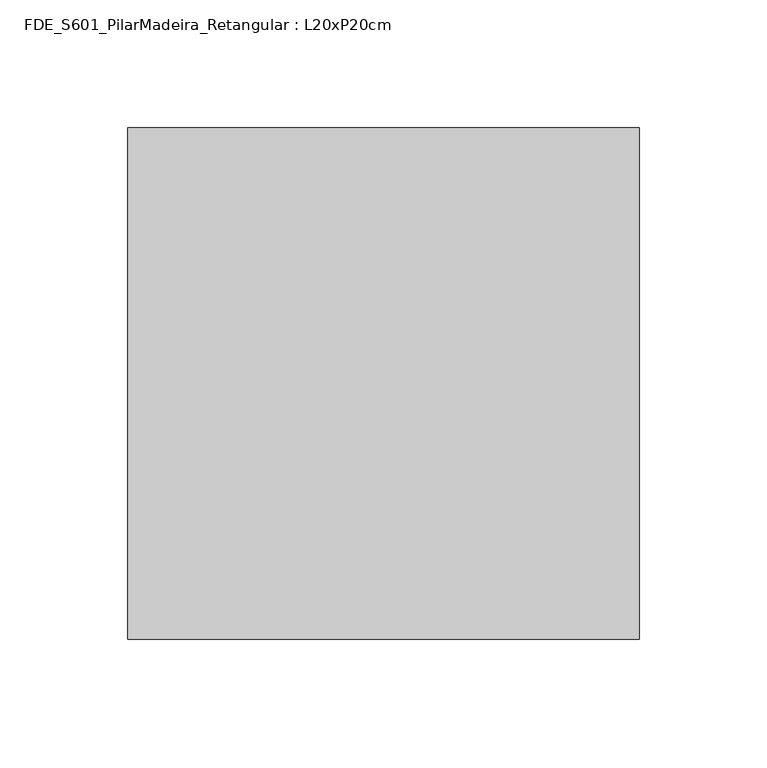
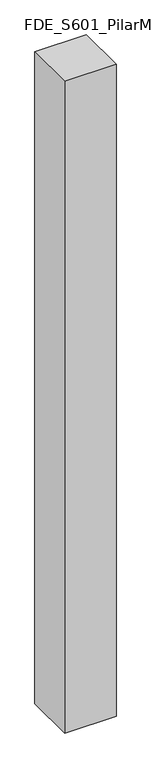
"""IFC4 building model written with IfcOpenShell, lengths in millimetres: column geometry, FDE_S601_PilarMadeira_Retangular : L20xP20cm."""

import ifcopenshell
import ifcopenshell.guid

model = None  # the IFC model being written
_history = None  # IfcOwnerHistory: only IFC2X3 demands one
_inside = {}  # id of a spatial element -> (the spatial element, [elements in it])
_under = {}  # id of a project, library or spatial element -> (it, [spatial elements below it])
_declared = {}  # id of a project -> (the project, [libraries it declares])
_typed = {}  # id of a type object -> (the type object, [elements of that type])
_made_of = {}  # id of a material, layer set ... -> (it, [elements and type objects made of it])


def new_model(schema):
    """Start an empty IFC model of exactly this schema.

    Asked for "IFC4X3", IfcOpenShell would pick the latest addendum, in which some entities
    have other attributes; the version numbers below select the first issue.
    IFC2X3 requires an IfcOwnerHistory on every rooted entity: one is made here for all.
    """
    global model, _history
    if schema == "IFC4X3":
        model = ifcopenshell.file(schema_version=(4, 3, 0, 0))
    else:
        model = ifcopenshell.file(schema=schema)
    _inside.clear()
    _under.clear()
    _declared.clear()
    _typed.clear()
    _made_of.clear()
    _history = None
    if model.schema == "IFC2X3":
        org = make("IfcOrganization", Name="unknown")
        user = make(
            "IfcPersonAndOrganization",
            ThePerson=make("IfcPerson", FamilyName="unknown"),
            TheOrganization=org,
        )
        app = make(
            "IfcApplication",
            ApplicationDeveloper=org,
            Version="unknown",
            ApplicationFullName="unknown",
            ApplicationIdentifier="unknown",
        )
        _history = make(
            "IfcOwnerHistory",
            OwningUser=user,
            OwningApplication=app,
            ChangeAction="ADDED",
            CreationDate=0,
        )
    return model


def make(cls, **values):
    """One entity of the class cls with the attributes given. An attribute that is None is left unset."""
    return model.create_entity(
        cls, **{name: value for name, value in values.items() if value is not None}
    )


def rooted(cls, **values):
    """An entity with a GlobalId (a new one), such as an element, a storey or a relation."""
    return make(cls, GlobalId=ifcopenshell.guid.new(), OwnerHistory=_history, **values)


def si_unit(unit_type, name, prefix=None):
    """IfcSIUnit, for example si_unit("LENGTHUNIT", "METRE", prefix="MILLI")."""
    return make("IfcSIUnit", UnitType=unit_type, Prefix=prefix, Name=name)


def assignment(units):
    """IfcUnitAssignment: the units of a project."""
    return None if units is None else make("IfcUnitAssignment", Units=units)


def point(xyz):
    """IfcCartesianPoint."""
    return None if xyz is None else make("IfcCartesianPoint", Coordinates=xyz)


def direction(xyz):
    """IfcDirection."""
    return None if xyz is None else make("IfcDirection", DirectionRatios=xyz)


def frame(location, z_axis=None, x_axis=None):
    """IfcAxis2Placement3D, a coordinate frame: its origin and axes. An axis left out is left unset."""
    return make(
        "IfcAxis2Placement3D",
        Location=point(location),
        Axis=direction(z_axis),
        RefDirection=direction(x_axis),
    )


def origin():
    """The frame at (0, 0, 0) with its axes left unset."""
    return frame((0.0, 0.0, 0.0))


def place(relative_to, where):
    """IfcLocalPlacement: puts the frame where relative to a parent placement (None: the world)."""
    return make(
        "IfcLocalPlacement", PlacementRelTo=relative_to, RelativePlacement=where
    )


def context(
    kind, dimensions, precision=None, world=None, true_north=None, identifier=None
):
    """IfcGeometricRepresentationContext, for example the 3D "Model" context."""
    return make(
        "IfcGeometricRepresentationContext",
        ContextIdentifier=identifier,
        ContextType=kind,
        CoordinateSpaceDimension=dimensions,
        Precision=precision,
        WorldCoordinateSystem=world,
        TrueNorth=true_north,
    )


def project(units=None, contexts=None):
    """IfcProject with its units and contexts."""
    return rooted(
        "IfcProject",
        Name="project",
        RepresentationContexts=contexts,
        UnitsInContext=assignment(units),
    )


def spatial(cls, under=None, at=None, **own):
    """A site, building, storey or space (cls), placed at a placement, below another one or the project."""
    s = rooted(cls, ObjectPlacement=at, **own)
    if under is not None:
        _under.setdefault(under.id(), (under, []))[1].append(s)
    return s


def polyline(points):
    """IfcPolyline through the points."""
    return make("IfcPolyline", Points=[point(p) for p in points])


def outline(outer, holes=None, kind="AREA"):
    """IfcArbitraryClosedProfileDef: a profile drawn as a closed curve; with holes, ...WithVoids."""
    if holes is None:
        return make("IfcArbitraryClosedProfileDef", ProfileType=kind, OuterCurve=outer)
    return make(
        "IfcArbitraryProfileDefWithVoids",
        ProfileType=kind,
        OuterCurve=outer,
        InnerCurves=holes,
    )


def extrude(swept, where, along, depth):
    """IfcExtrudedAreaSolid: the profile swept, set in the frame where, extruded along a direction by depth."""
    return make(
        "IfcExtrudedAreaSolid",
        SweptArea=swept,
        Position=where,
        ExtrudedDirection=direction(along),
        Depth=depth,
    )


def shape(context_of_items, identifier, shape_type, items):
    """IfcShapeRepresentation: the items that make up one representation, for example the "Body"."""
    return make(
        "IfcShapeRepresentation",
        ContextOfItems=context_of_items,
        RepresentationIdentifier=identifier,
        RepresentationType=shape_type,
        Items=items,
    )


def source(mapping_origin, context_of_items, identifier, shape_type, items):
    """IfcRepresentationMap: a shape defined once, which mapped items show again and again."""
    return make(
        "IfcRepresentationMap",
        MappingOrigin=mapping_origin,
        MappedRepresentation=shape(context_of_items, identifier, shape_type, items),
    )


def transform(
    local_origin,
    x_axis=None,
    y_axis=None,
    z_axis=None,
    scale=None,
    scale2=None,
    scale3=None,
    uniform=True,
):
    """IfcCartesianTransformationOperator3D, or its non-uniform kind. x_axis, y_axis, z_axis: its Axis1, 2, 3."""
    if uniform:
        return make(
            "IfcCartesianTransformationOperator3D",
            Axis1=direction(x_axis),
            Axis2=direction(y_axis),
            LocalOrigin=point(local_origin),
            Scale=scale,
            Axis3=direction(z_axis),
        )
    return make(
        "IfcCartesianTransformationOperator3DnonUniform",
        Axis1=direction(x_axis),
        Axis2=direction(y_axis),
        LocalOrigin=point(local_origin),
        Scale=scale,
        Axis3=direction(z_axis),
        Scale2=scale2,
        Scale3=scale3,
    )


def mapped(mapping_source, mapping_target):
    """IfcMappedItem: shows the shape of a source again, moved by a transform."""
    return make(
        "IfcMappedItem", MappingSource=mapping_source, MappingTarget=mapping_target
    )


def made_of(thing, what):
    """Note that an element or type object is made of a material, layer set ...; save() writes the relation."""
    if what is not None:
        _made_of.setdefault(what.id(), (what, []))[1].append(thing)
    return thing


def element(
    cls,
    number,
    at=None,
    inside=None,
    cuts=None,
    type_object=None,
    material=None,
    context=None,
    identifier="Body",
    shape_type=None,
    held_by="IfcProductDefinitionShape",
    body=None,
    shapes=None,
    **own,
):
    """One element of the class cls, such as IfcWall. Its Tag is "e" and its number.

    at: its placement. inside: the storey or other place that contains it. cuts: it is an
    opening in that element (IfcRelVoidsElement). A single representation is given by context,
    identifier, shape_type and body (its items); several are given by shapes. held_by: the class
    of the entity that holds the representations. save() writes the other relations.
    """
    e = rooted(cls, Tag="e%d" % number, ObjectPlacement=at, **own)
    if body is not None:
        shapes = [shape(context, identifier, shape_type, body)]
    if shapes is not None:
        e.Representation = make(held_by, Representations=shapes)
    if inside is not None:
        _inside.setdefault(inside.id(), (inside, []))[1].append(e)
    if cuts is not None:
        rooted(
            "IfcRelVoidsElement", RelatingBuildingElement=cuts, RelatedOpeningElement=e
        )
    if type_object is not None:
        _typed.setdefault(type_object.id(), (type_object, []))[1].append(e)
    return made_of(e, material)


def aggregate(whole, parts):
    """IfcRelAggregates: a whole, such as a stair, and the parts it consists of."""
    return rooted("IfcRelAggregates", RelatingObject=whole, RelatedObjects=parts)


def save(model, path):
    """Write the relations noted so far, then the file.

    IfcRelAggregates (storeys below a building ...), IfcRelContainedInSpatialStructure (elements
    in a storey), IfcRelDefinesByType, IfcRelAssociatesMaterial and IfcRelDeclares: one each for
    every whole, place, type object, material and project.
    """
    for whole, parts in _under.values():
        aggregate(whole, parts)
    for where, things in _inside.values():
        rooted(
            "IfcRelContainedInSpatialStructure",
            RelatedElements=things,
            RelatingStructure=where,
        )
    for kind, things in _typed.values():
        rooted("IfcRelDefinesByType", RelatedObjects=things, RelatingType=kind)
    for what, things in _made_of.values():
        rooted("IfcRelAssociatesMaterial", RelatedObjects=things, RelatingMaterial=what)
    for by, libraries in _declared.values():
        rooted("IfcRelDeclares", RelatingContext=by, RelatedDefinitions=libraries)
    model.write(path)


def fde_s601_pilarmadeira_retangular_l20xp20cm_9d354448(model_context):
    return source(origin(), model_context, "Body", "SweptSolid", [
        extrude(outline(polyline([(100.0, 100.0), (100.0, -100.0), (-100.0, -100.0), (-100.0, 100.0), (100.0, 100.0)])), frame((0.0, 0.0, 220.0), z_axis=(0.0, 0.0, 1.0), x_axis=(1.0, 0.0, 0.0)), (0.0, 0.0, 1.0), 2680.0),
    ])


if __name__ == "__main__":
    model = new_model("IFC4")
    model_context = context("Model", 3, world=origin())
    ifc_project = project(units=[si_unit("LENGTHUNIT", "METRE", prefix="MILLI")], contexts=[model_context])
    site = spatial("IfcSite", under=ifc_project)
    building = spatial("IfcBuilding", under=site)
    placement = place(None, origin())
    fde_s601_pilarmadeira_retangular_l20xp20cm_shape = fde_s601_pilarmadeira_retangular_l20xp20cm_9d354448(model_context)
    element("IfcColumn", 1, ObjectType="FDE_S601_PilarMadeira_Retangular : L20xP20cm", at=placement, inside=building, context=model_context, shape_type="MappedRepresentation", body=[
        mapped(fde_s601_pilarmadeira_retangular_l20xp20cm_shape, transform((0.0, 0.0, 0.0), x_axis=(1.0, 0.0, 0.0), y_axis=(0.0, 1.0, 0.0), z_axis=(0.0, 0.0, 1.0))),
    ])
    save(model, "model.ifc")
